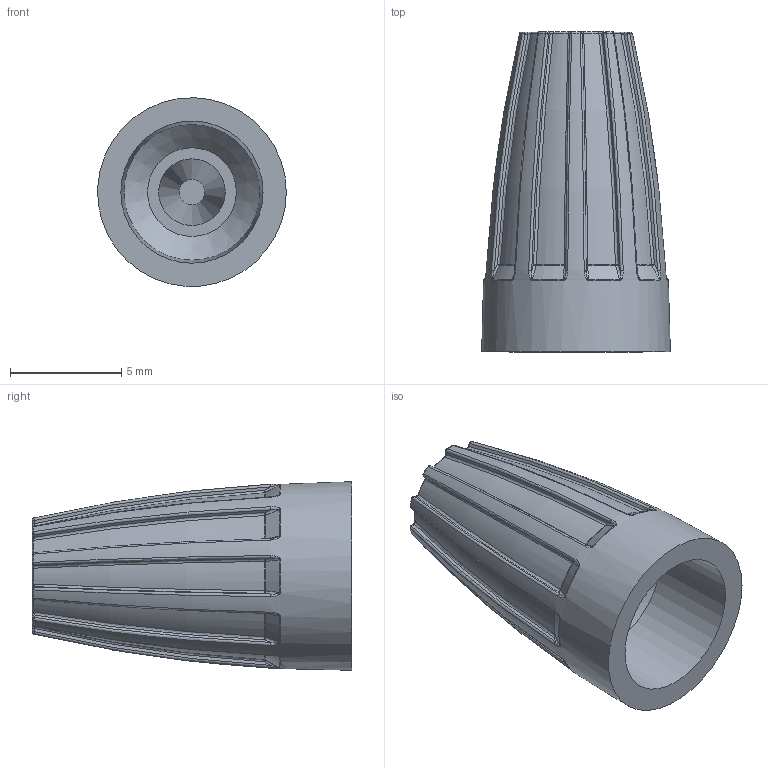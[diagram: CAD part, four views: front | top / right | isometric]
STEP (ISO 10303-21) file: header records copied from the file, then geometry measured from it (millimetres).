
FILE_DESCRIPTION(/* description */ ('Unknown'),/* implementation_level */ '2;1');
FILE_NAME(/* name */ 'Ideal 71B-1,5',/* time_stamp */ '2021-10-08T08:46:15+02:00',/* author */ ('Unknown'),/* organization */ ('Unknown'),/* preprocessor_version */ 'ST-DEVELOPER v16.7',/* originating_system */ 'Solid Edge',/* authorisation */ 'Unknown');
FILE_SCHEMA (('AUTOMOTIVE_DESIGN {1 0 10303 214 3 1 1}'));
Length unit declared in the file: millimetre
Products named in the file (1): Ideal 71B-1,5
Bounding box: 8.49 x 14.4 x 8.49 mm (x, y, z)
Volume: 406.6 mm3; surface area: 582.8 mm2
Topology: 1 solids, 1 shells, 248 faces, 572 edges, 288 vertices
Faces by surface type: bspline 100, torus 52, sphere 40, plane 24, cylinder 20, cone 12
Entity records: 7594 total; most frequent: CARTESIAN_POINT 2881, ORIENTED_EDGE 1052, DIRECTION 910, EDGE_CURVE 526, AXIS2_PLACEMENT_3D 435, CIRCLE 286, VERTEX_POINT 286, EDGE_LOOP 254
